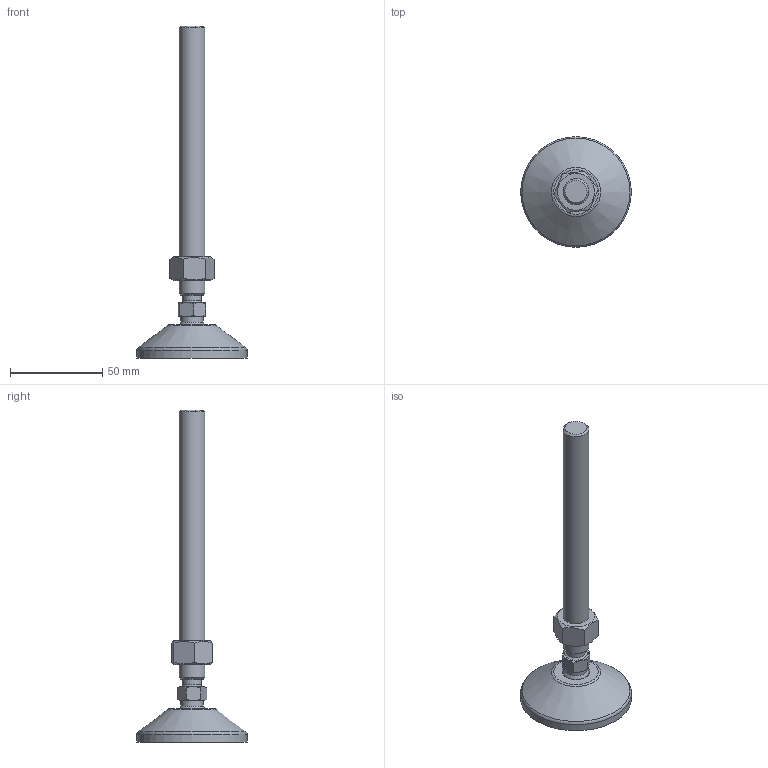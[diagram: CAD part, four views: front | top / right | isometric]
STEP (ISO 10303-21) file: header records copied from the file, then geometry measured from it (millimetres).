
FILE_DESCRIPTION(('STEP AP203'), '1');
FILE_NAME('栖闉罻', '', ('UNSPECIFIED'), ('UNSPECIFIED'), 'C3D Converter', 'C3D Toolkit', '');
FILE_SCHEMA(('CONFIG_CONTROL_DESIGN'));
Length unit declared in the file: millimetre
Products named in the file (4): A00020.114150; A00015.1060
Assembly tree (3 placements, depth 3):
  (unnamed)
    A00020.114150
      (unnamed)
    A00015.1060
Bounding box: 60 x 60 x 180.01 mm (x, y, z)
Volume: 49126.5 mm3; surface area: 19551.9 mm2
Topology: 3 solids, 3 shells, 165 faces, 428 edges, 282 vertices
Faces by surface type: plane 87, cylinder 34, cone 21, torus 21, sphere 2
Full cylindrical faces by diameter (mm): 4 x8, 10.2 x1, 11.835 x1, 12 x1, 14 x1, 14.3 x1, 15 x2, 15.5 x1, 50.5 x1, 60 x1
Entity records: 8739 total; most frequent: CARTESIAN_POINT 3319, DIRECTION 812, ORIENTED_EDGE 786, EDGE_CURVE 393, AXIS2_PLACEMENT_3D 336, VERTEX_POINT 281, EDGE_LOOP 214, FACE_BOUND 174
